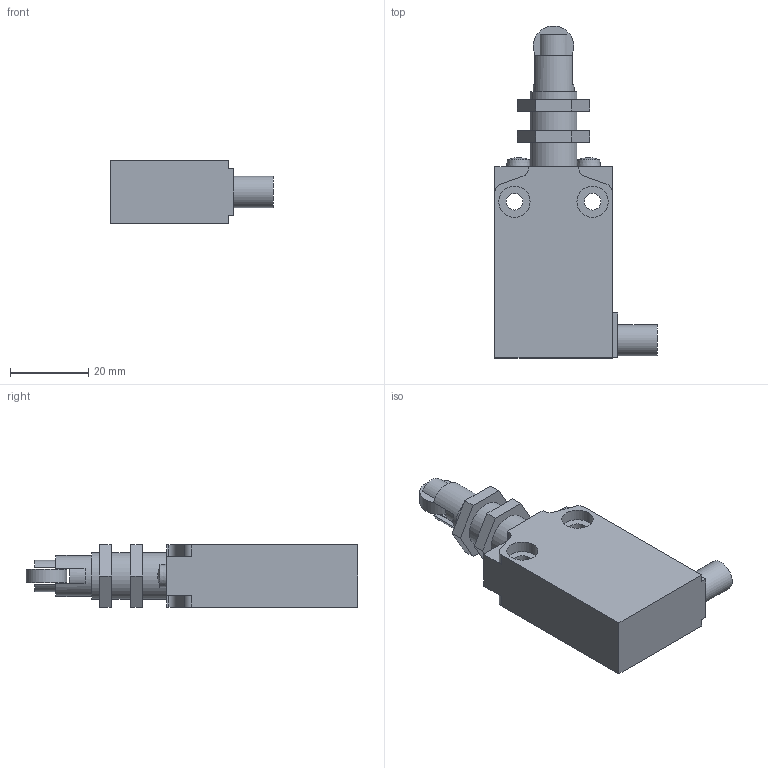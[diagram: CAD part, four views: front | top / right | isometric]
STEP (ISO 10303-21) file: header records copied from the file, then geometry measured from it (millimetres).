
FILE_DESCRIPTION((''),'2;1');
FILE_NAME('C:\Workarea\Disegni\Comepi\Catalogo\Stp\Finecorsa\EM1G22.iam.step','2011-07-22T16:16:37',(''),(''),'Autodesk Inventor 2012','Autodesk Inventor 2012','');
FILE_SCHEMA(('AUTOMOTIVE_DESIGN { 1 0 10303 214 1 1 1 1 }'));
Length unit declared in the file: millimetre
Products named in the file (6): EM1G22; EM1; G22; G22_1; G22_2; G22_3
Assembly tree (6 placements, depth 3):
  EM1G22
    EM1
    G22
      G22_1
      G22_2  x2
      G22_3
Bounding box: 41.5 x 85 x 16 mm (x, y, z)
Volume: 26452.6 mm3; surface area: 9795 mm2
Topology: 6 solids, 6 shells, 90 faces, 208 edges, 138 vertices
Faces by surface type: plane 62, cylinder 22, torus 2, cone 2, sphere 2
Full cylindrical faces by diameter (mm): 4.3 x2, 8 x7, 10.4 x1, 10.5 x1, 12 x3
Entity records: 2380 total; most frequent: DIRECTION 410, CARTESIAN_POINT 381, ORIENTED_EDGE 334, EDGE_CURVE 167, AXIS2_PLACEMENT_3D 150, VERTEX_POINT 121, EDGE_LOOP 112, VECTOR 110
